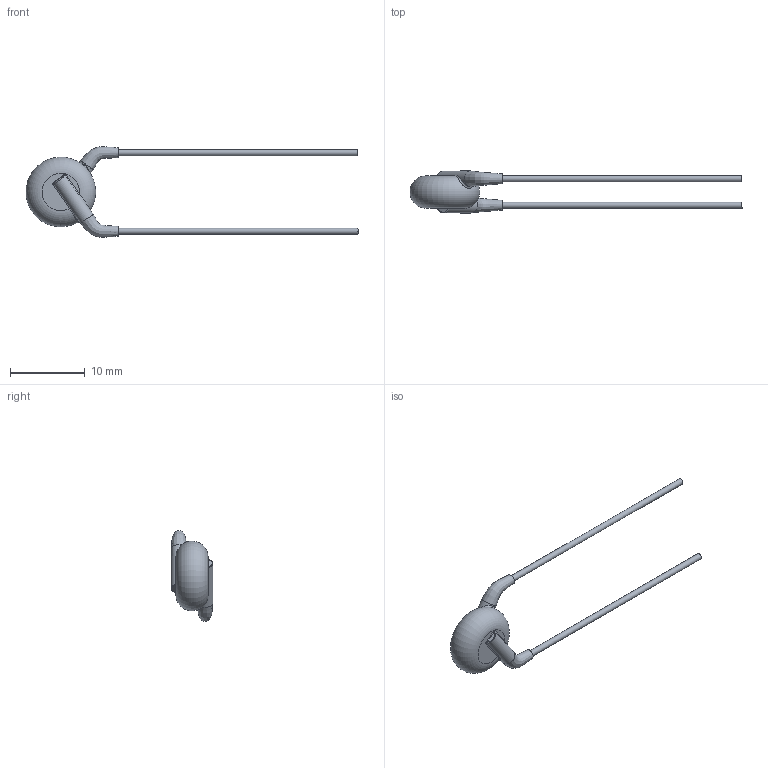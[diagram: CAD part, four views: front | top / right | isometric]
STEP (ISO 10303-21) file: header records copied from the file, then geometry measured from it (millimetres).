
FILE_DESCRIPTION(/* description */ (''),/* implementation_level */ '2;1');
FILE_NAME(/* name */ 'I:\Marketing\M6t1\3D-Models\Zchng-Werk-3\Upload for homepage\Ceramite\Y5U\440LD15-R\440LD15-R.stp',/* time_stamp */ '2016-11-15T13:20:29+01:00',/* author */ ('sheinrich'),/* organization */ (''),/* preprocessor_version */ 'ST-DEVELOPER v16.1',/* originating_system */ 'Autodesk Inventor 2016',/* authorisation */ '');
FILE_SCHEMA (('AUTOMOTIVE_DESIGN { 1 0 10303 214 3 1 1 }'));
Length unit declared in the file: millimetre
Products named in the file (1): 440LD15-R
Bounding box: 44.3 x 5.6 x 12.07 mm (x, y, z)
Volume: 313.9 mm3; surface area: 436.3 mm2
Topology: 1 solids, 1 shells, 37 faces, 80 edges, 43 vertices
Faces by surface type: bspline 12, cylinder 10, plane 8, torus 7
Full cylindrical faces by diameter (mm): 0.81 x2, 2.1 x2
Entity records: 1785 total; most frequent: CARTESIAN_POINT 1034, ORIENTED_EDGE 136, DIRECTION 128, EDGE_CURVE 68, AXIS2_PLACEMENT_3D 58, EDGE_LOOP 44, VERTEX_POINT 40, STYLED_ITEM 38
